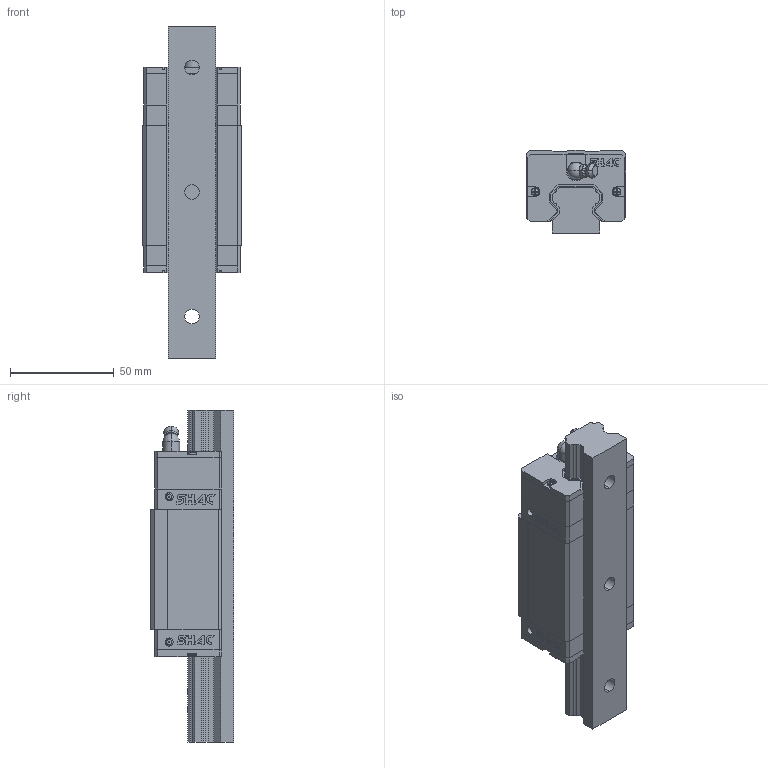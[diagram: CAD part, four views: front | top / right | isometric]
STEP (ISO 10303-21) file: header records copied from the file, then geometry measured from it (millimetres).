
FILE_DESCRIPTION (( 'STEP AP214' ), '1' );
FILE_NAME ('STP_GHH25CA_(E2)自润式_(R)上锁式_刮油片＋防尘条_160_160_1_GHH25CA_GHH25CA.step', '2020-06-27T02:32:35', ( 'IT Division' ), ( 'IT' ), 'SwSTEP 2.0', 'SolidWorks 2016', '' );
FILE_SCHEMA (( 'AUTOMOTIVE_DESIGN' ));
Length unit declared in the file: millimetre
Products named in the file (3): STP_GHH25CA_(E2)自润式_(R)上锁式_刮油片＋防尘条_160_160_1_GHH25CA_GHH25CA_2; STP_GHH25CA_(E2)自润式_(R)上锁式_刮油片＋防尘条_160_160_1_GHH25CA_GHH25CA_1; STP_GHH25CA_(E2)自润式_(R)上锁式_刮油片＋防尘条_160_160_1_GHH25CA_GHH25CA
Assembly tree (2 placements, depth 2):
  STP_GHH25CA_(E2)自润式_(R)上锁式_刮油片＋防尘条_160_160_1_GHH25CA_GHH25CA
    STP_GHH25CA_(E2)自润式_(R)上锁式_刮油片＋防尘条_160_160_1_GHH25CA_GHH25CA_1
    STP_GHH25CA_(E2)自润式_(R)上锁式_刮油片＋防尘条_160_160_1_GHH25CA_GHH25CA_2
Bounding box: 48 x 40 x 160 mm (x, y, z)
Volume: 190891.4 mm3; surface area: 52683.7 mm2
Topology: 8 solids, 8 shells, 861 faces, 2319 edges, 1522 vertices
Faces by surface type: plane 635, cylinder 160, cone 31, torus 25, sphere 10
Entity records: 29772 total; most frequent: CARTESIAN_POINT 4869, ORIENTED_EDGE 4614, DIRECTION 4472, EDGE_CURVE 2307, LINE 1802, VECTOR 1802, VERTEX_POINT 1520, AXIS2_PLACEMENT_3D 1335
